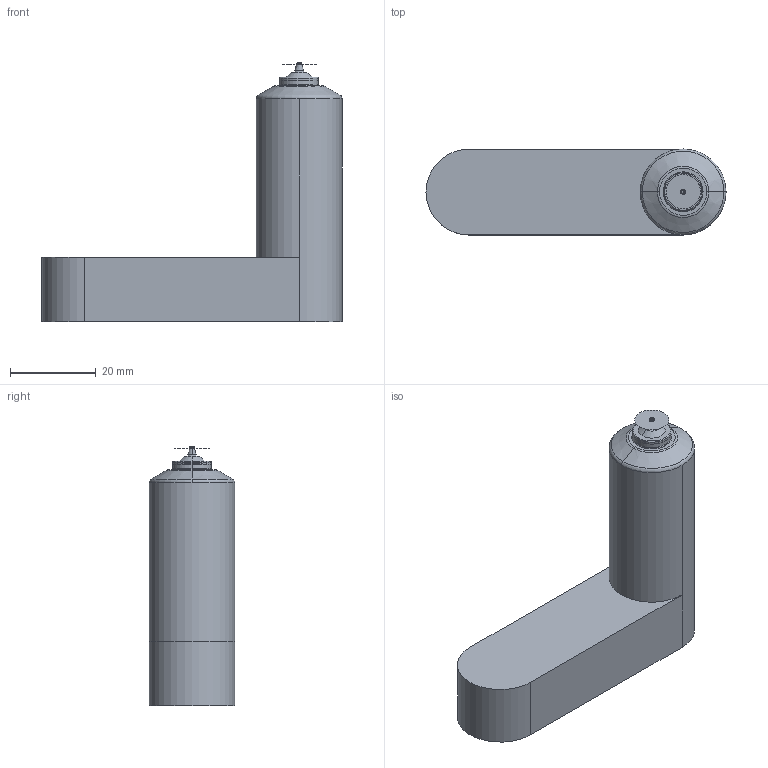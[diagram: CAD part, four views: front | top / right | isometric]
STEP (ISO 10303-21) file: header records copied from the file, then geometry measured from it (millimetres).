
FILE_DESCRIPTION (( 'STEP AP214' ), '1' );
FILE_NAME ('06E-03-060-VTW.STEP', '2023-01-03T08:39:58', ( '' ), ( '' ), 'SwSTEP 2.0', 'SolidWorks 2018', '' );
FILE_SCHEMA (( 'AUTOMOTIVE_DESIGN' ));
Length unit declared in the file: millimetre
Products named in the file (3): nozzle_06E-03-060-VTW; 06E-03-060-VTW; cutout_06E-03-060-VTW
Assembly tree (2 placements, depth 2):
  06E-03-060-VTW
    nozzle_06E-03-060-VTW
    cutout_06E-03-060-VTW
Bounding box: 70 x 20 x 60.45 mm (x, y, z)
Volume: 32150.1 mm3; surface area: 14385.8 mm2
Topology: 1 solids, 4 shells, 243 faces, 599 edges, 365 vertices
Faces by surface type: cylinder 89, plane 81, torus 33, cone 28, bspline 10, sphere 2
Entity records: 11456 total; most frequent: CARTESIAN_POINT 5528, DIRECTION 1295, ORIENTED_EDGE 1196, EDGE_CURVE 599, AXIS2_PLACEMENT_3D 518, VERTEX_POINT 365, CIRCLE 279, LINE 259
